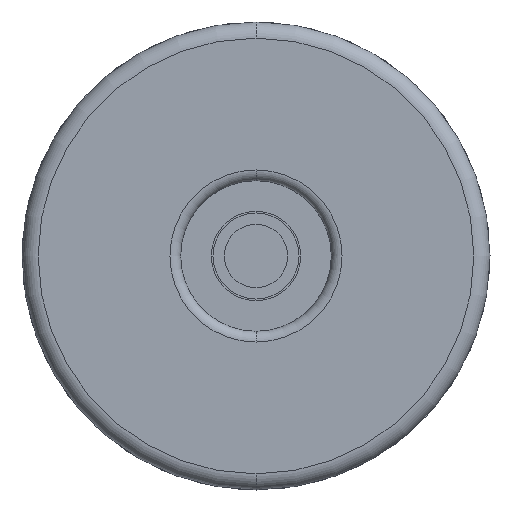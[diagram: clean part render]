
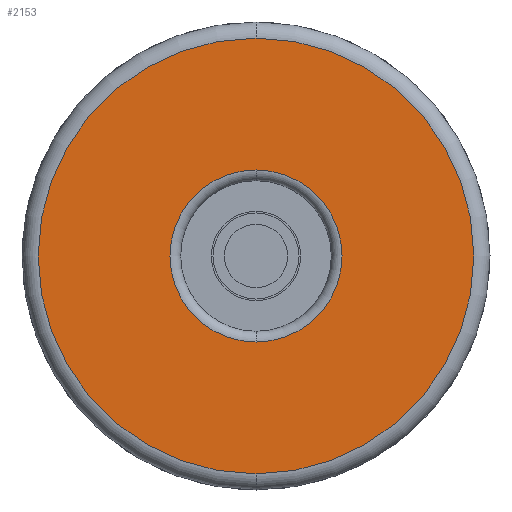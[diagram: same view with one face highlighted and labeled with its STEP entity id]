
A CAD part, front view. The second image highlights one B-rep face of the part: STEP entity #2153.
In plain terms, the highlighted planar face has unit normal (0, -1, 0).
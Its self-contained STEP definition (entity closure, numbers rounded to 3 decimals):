
#57 = ORIENTED_EDGE ( 'NONE', *, *, #4240, .T. ) ;
#190 = AXIS2_PLACEMENT_3D ( 'NONE', #3936, #3138, #1310 ) ;
#387 = FACE_OUTER_BOUND ( 'NONE', #1395, .T. ) ;
#408 = EDGE_CURVE ( 'NONE', #2990, #3619, #2276, .T. ) ;
#423 = ORIENTED_EDGE ( 'NONE', *, *, #408, .T. ) ;
#468 = CARTESIAN_POINT ( 'NONE',  ( 0., 0., -20.25 ) ) ;
#605 = DIRECTION ( 'NONE',  ( 0., 1., 0. ) ) ;
#622 = CARTESIAN_POINT ( 'NONE',  ( 0., 0., 20.25 ) ) ;
#693 = DIRECTION ( 'NONE',  ( 0., 0., -1. ) ) ;
#856 = CARTESIAN_POINT ( 'NONE',  ( 0., 0., -8. ) ) ;
#867 = AXIS2_PLACEMENT_3D ( 'NONE', #2959, #3323, #1488 ) ;
#1310 = DIRECTION ( 'NONE',  ( 0., 0., -1. ) ) ;
#1395 = EDGE_LOOP ( 'NONE', ( #1876, #57 ) ) ;
#1420 = DIRECTION ( 'NONE',  ( 0., 1., 0. ) ) ;
#1435 = VERTEX_POINT ( 'NONE', #468 ) ;
#1488 = DIRECTION ( 'NONE',  ( 0., 0., -1. ) ) ;
#1745 = DIRECTION ( 'NONE',  ( 0., -1., 0. ) ) ;
#1776 = EDGE_CURVE ( 'NONE', #3619, #2990, #2827, .T. ) ;
#1876 = ORIENTED_EDGE ( 'NONE', *, *, #3598, .T. ) ;
#2038 = PLANE ( 'NONE',  #3697 ) ;
#2153 = ADVANCED_FACE ( 'NONE', ( #387, #4231 ), #2038, .T. ) ;
#2276 = CIRCLE ( 'NONE', #2320, 8. ) ;
#2320 = AXIS2_PLACEMENT_3D ( 'NONE', #3150, #605, #2387 ) ;
#2387 = DIRECTION ( 'NONE',  ( 0., 0., -1. ) ) ;
#2423 = AXIS2_PLACEMENT_3D ( 'NONE', #2910, #1420, #693 ) ;
#2503 = CARTESIAN_POINT ( 'NONE',  ( -7., 0., 0. ) ) ;
#2827 = CIRCLE ( 'NONE', #2423, 8. ) ;
#2910 = CARTESIAN_POINT ( 'NONE',  ( 0., 0., 0. ) ) ;
#2959 = CARTESIAN_POINT ( 'NONE',  ( 0., 0., 0. ) ) ;
#2977 = CIRCLE ( 'NONE', #867, 20.25 ) ;
#2990 = VERTEX_POINT ( 'NONE', #856 ) ;
#3062 = CARTESIAN_POINT ( 'NONE',  ( 0., 0., 8. ) ) ;
#3138 = DIRECTION ( 'NONE',  ( 0., -1., 0. ) ) ;
#3150 = CARTESIAN_POINT ( 'NONE',  ( 0., 0., 0. ) ) ;
#3323 = DIRECTION ( 'NONE',  ( 0., -1., 0. ) ) ;
#3373 = CIRCLE ( 'NONE', #190, 20.25 ) ;
#3495 = EDGE_LOOP ( 'NONE', ( #423, #4614 ) ) ;
#3598 = EDGE_CURVE ( 'NONE', #1435, #4415, #3373, .T. ) ;
#3619 = VERTEX_POINT ( 'NONE', #3062 ) ;
#3697 = AXIS2_PLACEMENT_3D ( 'NONE', #2503, #1745, #4537 ) ;
#3936 = CARTESIAN_POINT ( 'NONE',  ( 0., 0., 0. ) ) ;
#4231 = FACE_BOUND ( 'NONE', #3495, .T. ) ;
#4240 = EDGE_CURVE ( 'NONE', #4415, #1435, #2977, .T. ) ;
#4415 = VERTEX_POINT ( 'NONE', #622 ) ;
#4537 = DIRECTION ( 'NONE',  ( 0., 0., -1. ) ) ;
#4614 = ORIENTED_EDGE ( 'NONE', *, *, #1776, .T. ) ;
